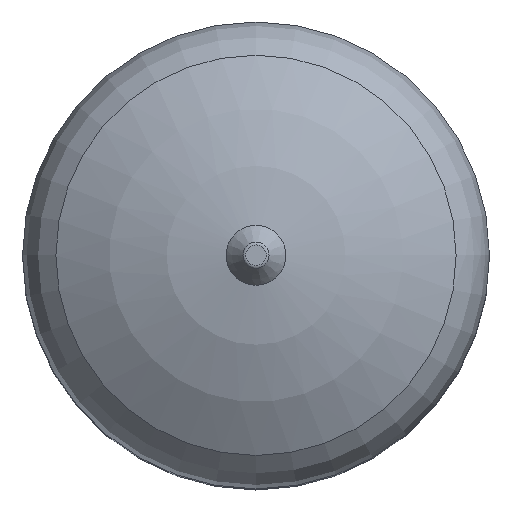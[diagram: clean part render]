
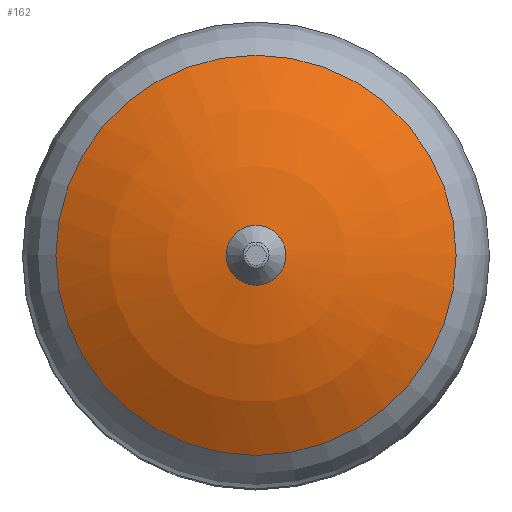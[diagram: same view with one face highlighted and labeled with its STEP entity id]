
A CAD part, top view. The second image highlights one B-rep face of the part: STEP entity #162.
In plain terms, the highlighted spherical face has radius 312 mm.
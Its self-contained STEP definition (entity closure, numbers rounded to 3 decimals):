
#162=ADVANCED_FACE('',(#803,#805),#807,.T.);
#803=FACE_BOUND('',#804,.T.);
#804=EDGE_LOOP('',(#1199,#1200));
#805=FACE_BOUND('',#806,.T.);
#806=EDGE_LOOP('',(#1201,#1202));
#807=SPHERICAL_SURFACE('',#808,312.);
#808=AXIS2_PLACEMENT_3D('',#809,#810,#811);
#809=CARTESIAN_POINT('',(0.,0.,434.193));
#810=DIRECTION('',(0.,0.,1.));
#811=DIRECTION('',(1.,0.,0.));
#1199=ORIENTED_EDGE('',*,*,#1394,.T.);
#1200=ORIENTED_EDGE('',*,*,#1393,.T.);
#1201=ORIENTED_EDGE('',*,*,#1395,.F.);
#1202=ORIENTED_EDGE('',*,*,#1396,.F.);
#1393=EDGE_CURVE('',#1725,#1726,#1727,.T.);
#1394=EDGE_CURVE('',#1726,#1725,#1728,.T.);
#1395=EDGE_CURVE('',#1729,#1730,#1731,.T.);
#1396=EDGE_CURVE('',#1730,#1729,#1732,.T.);
#1725=VERTEX_POINT('',#2521);
#1726=VERTEX_POINT('',#2522);
#1727=CIRCLE('',#2523,167.143);
#1728=CIRCLE('',#2527,167.143);
#1729=VERTEX_POINT('',#2531);
#1730=VERTEX_POINT('',#2532);
#1731=CIRCLE('',#2533,25.003);
#1732=CIRCLE('',#2537,25.003);
#2521=CARTESIAN_POINT('',(-167.143,0.,697.646));
#2522=CARTESIAN_POINT('',(167.143,0.,697.646));
#2523=AXIS2_PLACEMENT_3D('',#2524,#2525,#2526);
#2524=CARTESIAN_POINT('',(0.,0.,697.646));
#2525=DIRECTION('',(0.,0.,1.));
#2526=DIRECTION('',(-1.,0.,0.));
#2527=AXIS2_PLACEMENT_3D('',#2528,#2529,#2530);
#2528=CARTESIAN_POINT('',(0.,0.,697.646));
#2529=DIRECTION('',(0.,0.,1.));
#2530=DIRECTION('',(1.,0.,0.));
#2531=CARTESIAN_POINT('',(-25.003,0.,745.19));
#2532=CARTESIAN_POINT('',(25.003,0.,745.19));
#2533=AXIS2_PLACEMENT_3D('',#2534,#2535,#2536);
#2534=CARTESIAN_POINT('',(0.,0.,745.19));
#2535=DIRECTION('',(0.,0.,1.));
#2536=DIRECTION('',(-1.,0.,0.));
#2537=AXIS2_PLACEMENT_3D('',#2538,#2539,#2540);
#2538=CARTESIAN_POINT('',(0.,0.,745.19));
#2539=DIRECTION('',(0.,0.,1.));
#2540=DIRECTION('',(1.,0.,0.));
